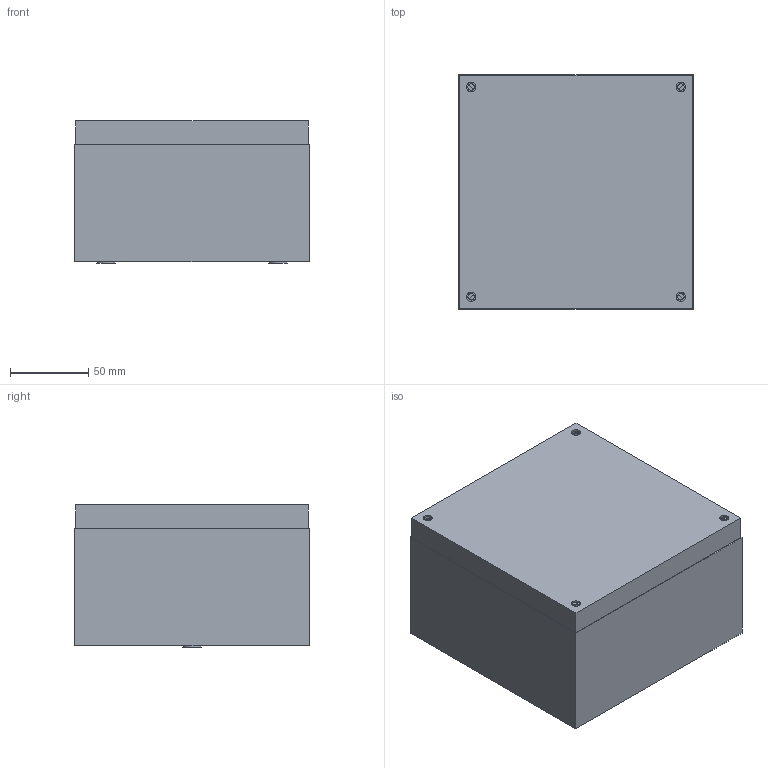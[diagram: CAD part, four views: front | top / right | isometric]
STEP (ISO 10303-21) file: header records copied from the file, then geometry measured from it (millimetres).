
FILE_DESCRIPTION(/* description */ ('Unknown'),/* implementation_level */ '2;1');
FILE_NAME(/* name */ 'SCA01501509',/* time_stamp */ '2025-01-31T15:18:59+01:00',/* author */ ('Unknown'),/* organization */ ('Unknown'),/* preprocessor_version */ 'ST-DEVELOPER v19.4',/* originating_system */ 'Solid Edge',/* authorisation */ 'Unknown');
FILE_SCHEMA (('CONFIG_CONTROL_DESIGN'));
Length unit declared in the file: millimetre
Products named in the file (10): SCA01501509; S000X000.13; S0000000.11; AE00511.01; S0000000.78; S0000000.02; S000X000.15_oa_0; S0000000.12; AE00407.01; S0000000.04
Assembly tree (14 placements, depth 3):
  SCA01501509
    S000X000.13
      S0000000.11
      AE00511.01  x4
    S0000000.78  x2
    S0000000.02  x2
    S000X000.15_oa_0
      S0000000.12
      AE00407.01
    S0000000.04
Bounding box: 150 x 150 x 91 mm (x, y, z)
Volume: 208906.9 mm3; surface area: 211137.3 mm2
Topology: 11 solids, 11 shells, 279 faces, 665 edges, 425 vertices
Faces by surface type: plane 167, cylinder 56, cone 49, torus 7
Full cylindrical faces by diameter (mm): 4.2 x6, 5 x3, 6 x4, 6.5 x1, 6.647 x2, 7 x4, 8 x2, 8.25 x2, 11 x2, 12 x2
Entity records: 4196 total; most frequent: CARTESIAN_POINT 668, DIRECTION 582, ORIENTED_EDGE 504, EDGE_CURVE 252, AXIS2_PLACEMENT_3D 215, VERTEX_POINT 181, FACE_BOUND 181, EDGE_LOOP 180
